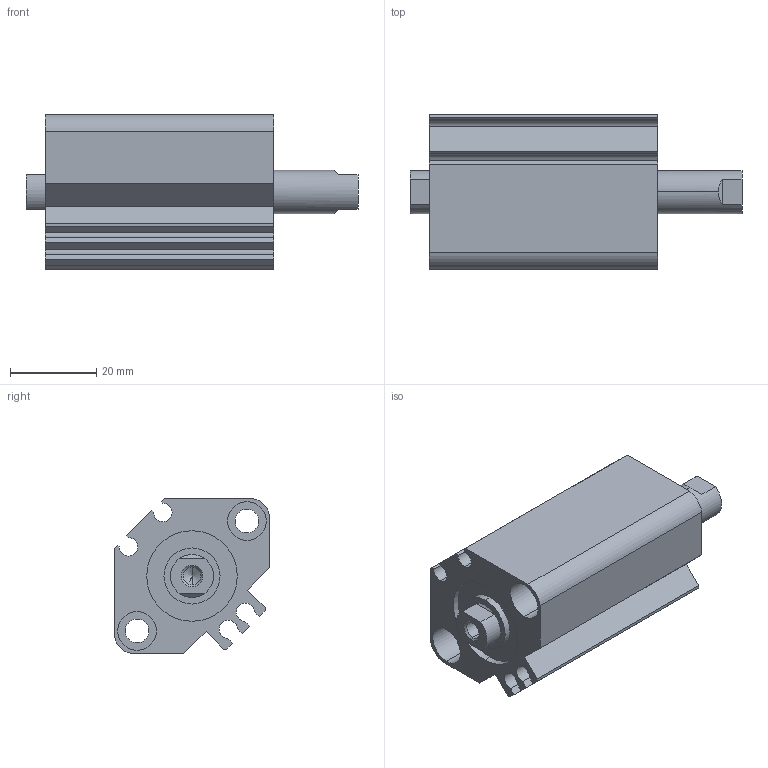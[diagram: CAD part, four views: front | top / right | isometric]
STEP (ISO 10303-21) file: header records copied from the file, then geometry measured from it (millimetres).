
FILE_DESCRIPTION (( 'STEP AP203' ), '1' );
FILE_NAME ('CCMB20-15F-P.STEP', '2020-08-05T11:05:33', ( '' ), ( '' ), 'SwSTEP 2.0', 'SolidWorks 2019', '' );
FILE_SCHEMA (( 'CONFIG_CONTROL_DESIGN' ));
Length unit declared in the file: millimetre
Products named in the file (1): CCMB20-15F-P
Bounding box: 77 x 36 x 36 mm (x, y, z)
Volume: 48869.8 mm3; surface area: 20400.9 mm2
Topology: 2 solids, 2 shells, 114 faces, 276 edges, 178 vertices
Faces by surface type: cylinder 52, plane 50, cone 12
Entity records: 3415 total; most frequent: DIRECTION 606, CARTESIAN_POINT 589, ORIENTED_EDGE 544, EDGE_CURVE 272, AXIS2_PLACEMENT_3D 227, VERTEX_POINT 178, LINE 152, VECTOR 152
